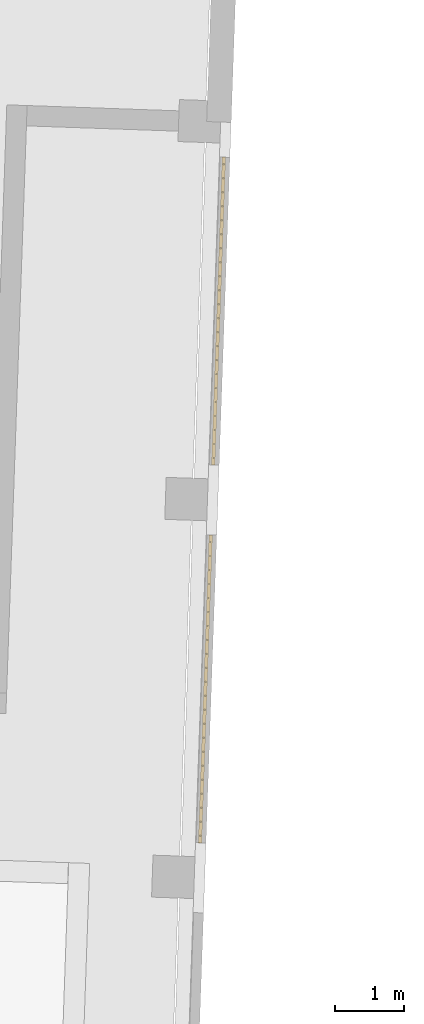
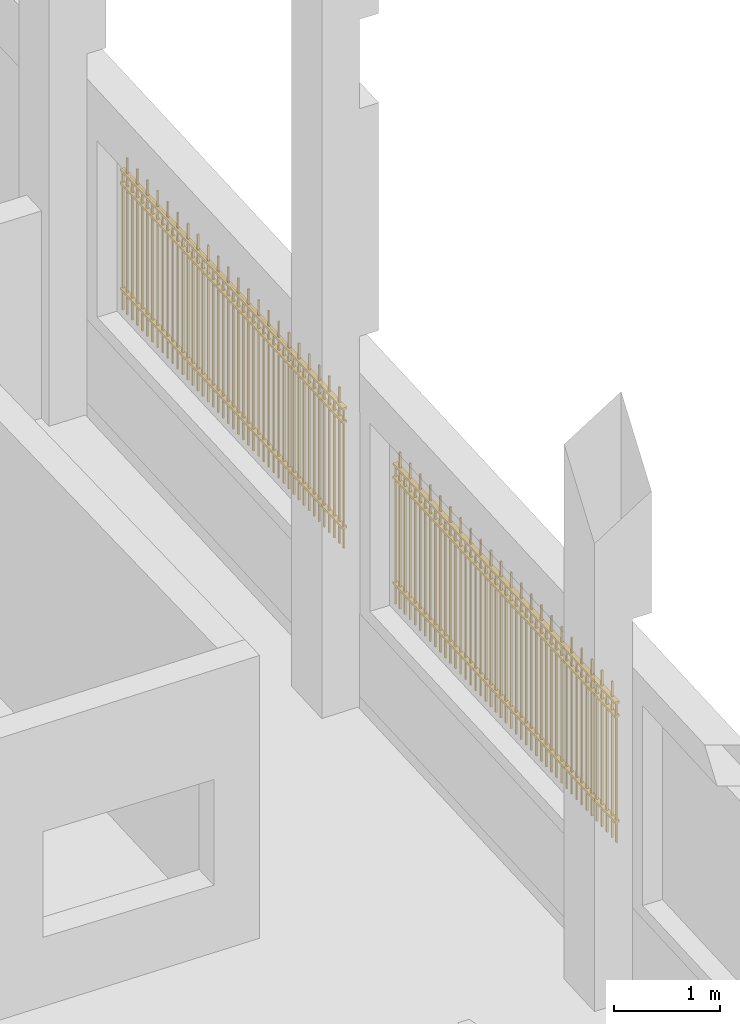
# One storey, part 42 of 44: 2 railings.
"""IFC2X3 building model written with IfcOpenShell, lengths in feet."""

from ifc_helpers import new_model, entity, si_unit, converted_unit, derived_unit, direction, frame, frame_2d, origin, origin_2d_with_axis, place, context, subcontext, project, spatial, rectangle, extrude, element, save


model = new_model("IFC2X3")

# Units and contexts
model_context = context("Model", 3, precision=0.0001, world=origin(), true_north=direction((0.999390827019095, 0.0348994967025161)))
body_context = subcontext(model_context, "Body", "Model", "MODEL_VIEW")
ifc_project = project(units=[converted_unit("LENGTHUNIT", "FOOT", entity("IfcRatioMeasure", 0.3048), si_unit("LENGTHUNIT", "METRE"), dimensions=[1, 0, 0, 0, 0, 0, 0]), converted_unit("AREAUNIT", "SQUARE FOOT", entity("IfcRatioMeasure", 0.09290304), si_unit("AREAUNIT", "SQUARE_METRE"), dimensions=[2, 0, 0, 0, 0, 0, 0]), converted_unit("VOLUMEUNIT", "CUBIC FOOT", entity("IfcRatioMeasure", 0.028316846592), si_unit("VOLUMEUNIT", "CUBIC_METRE"), dimensions=[3, 0, 0, 0, 0, 0, 0]), converted_unit("PLANEANGLEUNIT", "DEGREE", entity("IfcRatioMeasure", 0.0174532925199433), si_unit("PLANEANGLEUNIT", "RADIAN"), dimensions=[0, 0, 0, 0, 0, 0, 0]), si_unit("MASSUNIT", "GRAM", prefix="KILO"), si_unit("TIMEUNIT", "SECOND"), si_unit("FREQUENCYUNIT", "HERTZ"), si_unit("THERMODYNAMICTEMPERATUREUNIT", "DEGREE_CELSIUS"), derived_unit("THERMALTRANSMITTANCEUNIT", [(si_unit("MASSUNIT", "GRAM", prefix="KILO"), 1), (si_unit("THERMODYNAMICTEMPERATUREUNIT", "KELVIN"), -1), (si_unit("TIMEUNIT", "SECOND"), -3)]), derived_unit("VOLUMETRICFLOWRATEUNIT", [(si_unit("LENGTHUNIT", "METRE"), 3), (si_unit("TIMEUNIT", "SECOND"), -1)]), si_unit("ELECTRICCURRENTUNIT", "AMPERE"), si_unit("ELECTRICVOLTAGEUNIT", "VOLT"), si_unit("POWERUNIT", "WATT"), si_unit("FORCEUNIT", "NEWTON"), si_unit("ILLUMINANCEUNIT", "LUX"), si_unit("LUMINOUSFLUXUNIT", "LUMEN"), si_unit("LUMINOUSINTENSITYUNIT", "CANDELA"), derived_unit("USERDEFINED", [(si_unit("MASSUNIT", "GRAM", prefix="KILO"), -1), (si_unit("LENGTHUNIT", "METRE"), -2), (si_unit("TIMEUNIT", "SECOND"), 3), (si_unit("LUMINOUSFLUXUNIT", "LUMEN"), 1)]), derived_unit("LINEARVELOCITYUNIT", [(si_unit("LENGTHUNIT", "METRE"), 1), (si_unit("TIMEUNIT", "SECOND"), -1)]), si_unit("PRESSUREUNIT", "PASCAL"), derived_unit("USERDEFINED", [(si_unit("LENGTHUNIT", "METRE"), -2), (si_unit("MASSUNIT", "GRAM", prefix="KILO"), 1), (si_unit("TIMEUNIT", "SECOND"), -2)])], contexts=[model_context])

# Site, building, storey
site_placement = place(None, frame((892.518771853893, 322.38689265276, 0.00393700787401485), z_axis=(0.0, 0.0, 1.0), x_axis=(0.0348994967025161, 0.999390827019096, 0.0)))
site = spatial("IfcSite", under=ifc_project, at=site_placement, Name="Default", CompositionType="ELEMENT")
building_placement = place(site_placement, origin())
building = spatial("IfcBuilding", under=site, at=building_placement, CompositionType="ELEMENT")
storey_placement = place(building_placement, frame((0.0, 0.0, 544.75)))
storey = spatial("IfcBuildingStorey", under=building, at=storey_placement, Name="Exist Garage - Ground Level", CompositionType="ELEMENT", Elevation=544.75)

# Railings
railing_1_placement = place(storey_placement, origin())
element("IfcRailing", 1, at=railing_1_placement, inside=storey, Name="Railing:Garage Security Grille", ObjectType="Railing:Garage Security Grille", PredefinedType="NOTDEFINED", context=body_context, shape_type="SweptSolid", body=[
    extrude(rectangle(XDim=0.0625, YDim=0.0625, at=origin_2d_with_axis()), frame((190.926356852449, 235.548139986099, 3.66666666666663)), (0.0, 0.0, 1.0), 5.91666666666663),
    extrude(rectangle(XDim=0.0625, YDim=0.0625, at=origin_2d_with_axis()), frame((190.593023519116, 235.548139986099, 3.66666666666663)), (0.0, 0.0, 1.0), 5.25),
    extrude(rectangle(XDim=0.0625, YDim=0.0625, at=origin_2d_with_axis()), frame((190.259690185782, 235.548139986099, 3.66666666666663)), (0.0, 0.0, 1.0), 5.91666666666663),
    extrude(rectangle(XDim=0.0625, YDim=0.0625, at=origin_2d_with_axis()), frame((189.926356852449, 235.548139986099, 3.66666666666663)), (0.0, 0.0, 1.0), 5.25),
    extrude(rectangle(XDim=0.0625, YDim=0.0625, at=origin_2d_with_axis()), frame((189.593023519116, 235.548139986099, 3.66666666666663)), (0.0, 0.0, 1.0), 5.91666666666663),
    extrude(rectangle(XDim=0.0625, YDim=0.0625, at=origin_2d_with_axis()), frame((189.259690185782, 235.548139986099, 3.66666666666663)), (0.0, 0.0, 1.0), 5.25),
    extrude(rectangle(XDim=0.0625, YDim=0.0625, at=origin_2d_with_axis()), frame((188.926356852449, 235.548139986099, 3.66666666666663)), (0.0, 0.0, 1.0), 5.91666666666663),
    extrude(rectangle(XDim=0.0625, YDim=0.0625, at=origin_2d_with_axis()), frame((188.593023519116, 235.548139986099, 3.66666666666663)), (0.0, 0.0, 1.0), 5.25),
    extrude(rectangle(XDim=0.0625, YDim=0.0625, at=origin_2d_with_axis()), frame((188.259690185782, 235.548139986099, 3.66666666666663)), (0.0, 0.0, 1.0), 5.91666666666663),
    extrude(rectangle(XDim=0.0625, YDim=0.0625, at=origin_2d_with_axis()), frame((187.926356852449, 235.548139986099, 3.66666666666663)), (0.0, 0.0, 1.0), 5.25),
    extrude(rectangle(XDim=0.0625, YDim=0.0625, at=origin_2d_with_axis()), frame((187.593023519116, 235.548139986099, 3.66666666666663)), (0.0, 0.0, 1.0), 5.91666666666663),
    extrude(rectangle(XDim=0.0625, YDim=0.0625, at=origin_2d_with_axis()), frame((187.259690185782, 235.548139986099, 3.66666666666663)), (0.0, 0.0, 1.0), 5.25),
    extrude(rectangle(XDim=0.0625, YDim=0.0625, at=origin_2d_with_axis()), frame((186.926356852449, 235.548139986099, 3.66666666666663)), (0.0, 0.0, 1.0), 5.91666666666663),
    extrude(rectangle(XDim=0.0625, YDim=0.0625, at=origin_2d_with_axis()), frame((186.593023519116, 235.548139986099, 3.66666666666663)), (0.0, 0.0, 1.0), 5.25),
    extrude(rectangle(XDim=0.0625, YDim=0.0625, at=origin_2d_with_axis()), frame((186.259690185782, 235.548139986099, 3.66666666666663)), (0.0, 0.0, 1.0), 5.91666666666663),
    extrude(rectangle(XDim=0.0625, YDim=0.0625, at=origin_2d_with_axis()), frame((185.926356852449, 235.548139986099, 3.66666666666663)), (0.0, 0.0, 1.0), 5.25),
    extrude(rectangle(XDim=0.0625, YDim=0.0625, at=origin_2d_with_axis()), frame((185.593023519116, 235.548139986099, 3.66666666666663)), (0.0, 0.0, 1.0), 5.91666666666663),
    extrude(rectangle(XDim=0.0625, YDim=0.0625, at=origin_2d_with_axis()), frame((185.259690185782, 235.548139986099, 3.66666666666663)), (0.0, 0.0, 1.0), 5.25),
    extrude(rectangle(XDim=0.0625, YDim=0.0625, at=origin_2d_with_axis()), frame((184.926356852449, 235.548139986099, 3.66666666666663)), (0.0, 0.0, 1.0), 5.91666666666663),
    extrude(rectangle(XDim=0.0625, YDim=0.0625, at=origin_2d_with_axis()), frame((184.593023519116, 235.548139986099, 3.66666666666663)), (0.0, 0.0, 1.0), 5.25),
    extrude(rectangle(XDim=0.0625, YDim=0.0625, at=origin_2d_with_axis()), frame((184.259690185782, 235.548139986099, 3.66666666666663)), (0.0, 0.0, 1.0), 5.91666666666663),
    extrude(rectangle(XDim=0.0625, YDim=0.0625, at=origin_2d_with_axis()), frame((183.926356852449, 235.548139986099, 3.66666666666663)), (0.0, 0.0, 1.0), 5.25),
    extrude(rectangle(XDim=0.0625, YDim=0.0625, at=origin_2d_with_axis()), frame((183.593023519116, 235.548139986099, 3.66666666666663)), (0.0, 0.0, 1.0), 5.91666666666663),
    extrude(rectangle(XDim=0.0625, YDim=0.0625, at=origin_2d_with_axis()), frame((183.259690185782, 235.548139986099, 3.66666666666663)), (0.0, 0.0, 1.0), 5.25),
    extrude(rectangle(XDim=0.0625, YDim=0.0625, at=origin_2d_with_axis()), frame((182.926356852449, 235.548139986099, 3.66666666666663)), (0.0, 0.0, 1.0), 5.91666666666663),
    extrude(rectangle(XDim=0.0625, YDim=0.0625, at=origin_2d_with_axis()), frame((182.593023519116, 235.548139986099, 3.66666666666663)), (0.0, 0.0, 1.0), 5.25),
    extrude(rectangle(XDim=0.0625, YDim=0.0625, at=origin_2d_with_axis()), frame((182.259690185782, 235.548139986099, 3.66666666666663)), (0.0, 0.0, 1.0), 5.91666666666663),
    extrude(rectangle(XDim=0.0625, YDim=0.0625, at=origin_2d_with_axis()), frame((181.926356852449, 235.548139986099, 3.66666666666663)), (0.0, 0.0, 1.0), 5.25),
    extrude(rectangle(XDim=0.0625, YDim=0.0625, at=origin_2d_with_axis()), frame((181.593023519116, 235.548139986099, 3.66666666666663)), (0.0, 0.0, 1.0), 5.91666666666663),
    extrude(rectangle(XDim=0.0625, YDim=0.0625, at=origin_2d_with_axis()), frame((181.259690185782, 235.548139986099, 3.66666666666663)), (0.0, 0.0, 1.0), 5.25),
    extrude(rectangle(XDim=0.0625, YDim=0.0625, at=origin_2d_with_axis()), frame((180.926356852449, 235.548139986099, 3.66666666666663)), (0.0, 0.0, 1.0), 5.91666666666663),
    extrude(rectangle(XDim=0.0625, YDim=0.0625, at=origin_2d_with_axis()), frame((180.593023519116, 235.548139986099, 3.66666666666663)), (0.0, 0.0, 1.0), 5.25),
    extrude(rectangle(XDim=0.0625, YDim=0.0625, at=origin_2d_with_axis()), frame((180.259690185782, 235.548139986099, 3.66666666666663)), (0.0, 0.0, 1.0), 5.91666666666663),
    extrude(rectangle(XDim=0.0625, YDim=0.0625, at=origin_2d_with_axis()), frame((179.926356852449, 235.548139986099, 3.66666666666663)), (0.0, 0.0, 1.0), 5.25),
    extrude(rectangle(XDim=0.0625, YDim=0.0625, at=origin_2d_with_axis()), frame((179.593023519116, 235.548139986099, 3.66666666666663)), (0.0, 0.0, 1.0), 5.91666666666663),
    extrude(rectangle(XDim=0.0625, YDim=0.0625, at=origin_2d_with_axis()), frame((179.259690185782, 235.548139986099, 3.66666666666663)), (0.0, 0.0, 1.0), 5.25),
    extrude(rectangle(XDim=0.0625, YDim=0.0625, at=origin_2d_with_axis()), frame((178.926356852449, 235.548139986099, 3.66666666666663)), (0.0, 0.0, 1.0), 5.91666666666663),
    extrude(rectangle(XDim=0.0625, YDim=0.0625, at=origin_2d_with_axis()), frame((178.593023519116, 235.548139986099, 3.66666666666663)), (0.0, 0.0, 1.0), 5.25),
    extrude(rectangle(XDim=0.0625, YDim=0.0625, at=origin_2d_with_axis()), frame((178.259690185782, 235.548139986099, 3.66666666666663)), (0.0, 0.0, 1.0), 5.91666666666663),
    extrude(rectangle(XDim=0.0625, YDim=0.0625, at=origin_2d_with_axis()), frame((177.926356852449, 235.548139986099, 3.66666666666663)), (0.0, 0.0, 1.0), 5.25),
    extrude(rectangle(XDim=0.0625, YDim=0.0625, at=origin_2d_with_axis()), frame((177.593023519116, 235.548139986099, 3.66666666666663)), (0.0, 0.0, 1.0), 5.91666666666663),
    extrude(rectangle(XDim=0.0625, YDim=0.0625, at=origin_2d_with_axis()), frame((177.259690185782, 235.548139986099, 3.66666666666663)), (0.0, 0.0, 1.0), 5.25),
    extrude(rectangle(XDim=0.0625, YDim=0.0625, at=origin_2d_with_axis()), frame((176.926356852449, 235.548139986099, 3.66666666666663)), (0.0, 0.0, 1.0), 5.91666666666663),
    extrude(rectangle(XDim=0.0625, YDim=0.0625, at=origin_2d_with_axis()), frame((191.218023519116, 235.548139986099, 3.66666666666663)), (0.0, 0.0, 1.0), 5.25),
    extrude(rectangle(XDim=0.0625, YDim=0.0625, at=origin_2d_with_axis()), frame((176.634690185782, 235.548139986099, 3.66666666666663)), (0.0, 0.0, 1.0), 5.25),
    extrude(rectangle(XDim=14.6666666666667, YDim=0.166666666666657, at=frame_2d((1.4210854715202e-14, 0.0), x_axis=(1.0, 0.0))), frame((183.926356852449, 235.548139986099, 8.91666666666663)), (0.0, 0.0, 1.0), 0.0833333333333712),
    extrude(rectangle(XDim=14.6666666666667, YDim=0.166666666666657, at=frame_2d((1.4210854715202e-14, 0.0), x_axis=(1.0, 0.0))), frame((183.926356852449, 235.548139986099, 4.41666666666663)), (0.0, 0.0, 1.0), 0.0833333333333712),
    extrude(rectangle(XDim=14.6666666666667, YDim=0.166666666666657, at=frame_2d((1.4210854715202e-14, 0.0), x_axis=(1.0, 0.0))), frame((183.926356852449, 235.548139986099, 8.41666666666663)), (0.0, 0.0, 1.0), 0.0833333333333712),
])
railing_2_placement = place(storey_placement, origin())
element("IfcRailing", 2, at=railing_2_placement, inside=storey, Name="Railing:Garage Security Grille", ObjectType="Railing:Garage Security Grille", PredefinedType="NOTDEFINED", context=body_context, shape_type="SweptSolid", body=[
    extrude(rectangle(XDim=0.0625, YDim=0.0625, at=origin_2d_with_axis()), frame((172.926356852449, 235.548139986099, 3.66666666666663)), (0.0, 0.0, 1.0), 5.91666666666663),
    extrude(rectangle(XDim=0.0625, YDim=0.0625, at=origin_2d_with_axis()), frame((172.593023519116, 235.548139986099, 3.66666666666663)), (0.0, 0.0, 1.0), 5.25),
    extrude(rectangle(XDim=0.0625, YDim=0.0625, at=origin_2d_with_axis()), frame((172.259690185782, 235.548139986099, 3.66666666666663)), (0.0, 0.0, 1.0), 5.91666666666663),
    extrude(rectangle(XDim=0.0625, YDim=0.0625, at=origin_2d_with_axis()), frame((171.926356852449, 235.548139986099, 3.66666666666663)), (0.0, 0.0, 1.0), 5.25),
    extrude(rectangle(XDim=0.0625, YDim=0.0625, at=origin_2d_with_axis()), frame((171.593023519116, 235.548139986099, 3.66666666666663)), (0.0, 0.0, 1.0), 5.91666666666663),
    extrude(rectangle(XDim=0.0625, YDim=0.0625, at=origin_2d_with_axis()), frame((171.259690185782, 235.548139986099, 3.66666666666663)), (0.0, 0.0, 1.0), 5.25),
    extrude(rectangle(XDim=0.0625, YDim=0.0625, at=origin_2d_with_axis()), frame((170.926356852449, 235.548139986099, 3.66666666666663)), (0.0, 0.0, 1.0), 5.91666666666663),
    extrude(rectangle(XDim=0.0625, YDim=0.0625, at=origin_2d_with_axis()), frame((170.593023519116, 235.548139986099, 3.66666666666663)), (0.0, 0.0, 1.0), 5.25),
    extrude(rectangle(XDim=0.0625, YDim=0.0625, at=origin_2d_with_axis()), frame((170.259690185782, 235.548139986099, 3.66666666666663)), (0.0, 0.0, 1.0), 5.91666666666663),
    extrude(rectangle(XDim=0.0625, YDim=0.0625, at=origin_2d_with_axis()), frame((169.926356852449, 235.548139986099, 3.66666666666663)), (0.0, 0.0, 1.0), 5.25),
    extrude(rectangle(XDim=0.0625, YDim=0.0625, at=origin_2d_with_axis()), frame((169.593023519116, 235.548139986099, 3.66666666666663)), (0.0, 0.0, 1.0), 5.91666666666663),
    extrude(rectangle(XDim=0.0625, YDim=0.0625, at=origin_2d_with_axis()), frame((169.259690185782, 235.548139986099, 3.66666666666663)), (0.0, 0.0, 1.0), 5.25),
    extrude(rectangle(XDim=0.0625, YDim=0.0625, at=origin_2d_with_axis()), frame((168.926356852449, 235.548139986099, 3.66666666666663)), (0.0, 0.0, 1.0), 5.91666666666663),
    extrude(rectangle(XDim=0.0625, YDim=0.0625, at=origin_2d_with_axis()), frame((168.593023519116, 235.548139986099, 3.66666666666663)), (0.0, 0.0, 1.0), 5.25),
    extrude(rectangle(XDim=0.0625, YDim=0.0625, at=origin_2d_with_axis()), frame((168.259690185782, 235.548139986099, 3.66666666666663)), (0.0, 0.0, 1.0), 5.91666666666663),
    extrude(rectangle(XDim=0.0625, YDim=0.0625, at=origin_2d_with_axis()), frame((167.926356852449, 235.548139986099, 3.66666666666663)), (0.0, 0.0, 1.0), 5.25),
    extrude(rectangle(XDim=0.0625, YDim=0.0625, at=origin_2d_with_axis()), frame((167.593023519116, 235.548139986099, 3.66666666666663)), (0.0, 0.0, 1.0), 5.91666666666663),
    extrude(rectangle(XDim=0.0625, YDim=0.0625, at=origin_2d_with_axis()), frame((167.259690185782, 235.548139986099, 3.66666666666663)), (0.0, 0.0, 1.0), 5.25),
    extrude(rectangle(XDim=0.0625, YDim=0.0625, at=origin_2d_with_axis()), frame((166.926356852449, 235.548139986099, 3.66666666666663)), (0.0, 0.0, 1.0), 5.91666666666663),
    extrude(rectangle(XDim=0.0625, YDim=0.0625, at=origin_2d_with_axis()), frame((166.593023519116, 235.548139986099, 3.66666666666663)), (0.0, 0.0, 1.0), 5.25),
    extrude(rectangle(XDim=0.0625, YDim=0.0625, at=origin_2d_with_axis()), frame((166.259690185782, 235.548139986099, 3.66666666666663)), (0.0, 0.0, 1.0), 5.91666666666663),
    extrude(rectangle(XDim=0.0625, YDim=0.0625, at=origin_2d_with_axis()), frame((165.926356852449, 235.548139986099, 3.66666666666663)), (0.0, 0.0, 1.0), 5.25),
    extrude(rectangle(XDim=0.0625, YDim=0.0625, at=origin_2d_with_axis()), frame((165.593023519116, 235.548139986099, 3.66666666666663)), (0.0, 0.0, 1.0), 5.91666666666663),
    extrude(rectangle(XDim=0.0625, YDim=0.0625, at=origin_2d_with_axis()), frame((165.259690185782, 235.548139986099, 3.66666666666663)), (0.0, 0.0, 1.0), 5.25),
    extrude(rectangle(XDim=0.0625, YDim=0.0625, at=origin_2d_with_axis()), frame((164.926356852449, 235.548139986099, 3.66666666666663)), (0.0, 0.0, 1.0), 5.91666666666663),
    extrude(rectangle(XDim=0.0625, YDim=0.0625, at=origin_2d_with_axis()), frame((164.593023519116, 235.548139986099, 3.66666666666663)), (0.0, 0.0, 1.0), 5.25),
    extrude(rectangle(XDim=0.0625, YDim=0.0625, at=origin_2d_with_axis()), frame((164.259690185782, 235.548139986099, 3.66666666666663)), (0.0, 0.0, 1.0), 5.91666666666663),
    extrude(rectangle(XDim=0.0625, YDim=0.0625, at=origin_2d_with_axis()), frame((163.926356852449, 235.548139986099, 3.66666666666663)), (0.0, 0.0, 1.0), 5.25),
    extrude(rectangle(XDim=0.0625, YDim=0.0625, at=origin_2d_with_axis()), frame((163.593023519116, 235.548139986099, 3.66666666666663)), (0.0, 0.0, 1.0), 5.91666666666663),
    extrude(rectangle(XDim=0.0625, YDim=0.0625, at=origin_2d_with_axis()), frame((163.259690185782, 235.548139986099, 3.66666666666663)), (0.0, 0.0, 1.0), 5.25),
    extrude(rectangle(XDim=0.0625, YDim=0.0625, at=origin_2d_with_axis()), frame((162.926356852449, 235.548139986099, 3.66666666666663)), (0.0, 0.0, 1.0), 5.91666666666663),
    extrude(rectangle(XDim=0.0625, YDim=0.0625, at=origin_2d_with_axis()), frame((162.593023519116, 235.548139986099, 3.66666666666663)), (0.0, 0.0, 1.0), 5.25),
    extrude(rectangle(XDim=0.0625, YDim=0.0625, at=origin_2d_with_axis()), frame((162.259690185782, 235.548139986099, 3.66666666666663)), (0.0, 0.0, 1.0), 5.91666666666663),
    extrude(rectangle(XDim=0.0625, YDim=0.0625, at=origin_2d_with_axis()), frame((161.926356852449, 235.548139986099, 3.66666666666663)), (0.0, 0.0, 1.0), 5.25),
    extrude(rectangle(XDim=0.0625, YDim=0.0625, at=origin_2d_with_axis()), frame((161.593023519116, 235.548139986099, 3.66666666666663)), (0.0, 0.0, 1.0), 5.91666666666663),
    extrude(rectangle(XDim=0.0625, YDim=0.0625, at=origin_2d_with_axis()), frame((161.259690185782, 235.548139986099, 3.66666666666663)), (0.0, 0.0, 1.0), 5.25),
    extrude(rectangle(XDim=0.0625, YDim=0.0625, at=origin_2d_with_axis()), frame((160.926356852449, 235.548139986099, 3.66666666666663)), (0.0, 0.0, 1.0), 5.91666666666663),
    extrude(rectangle(XDim=0.0625, YDim=0.0625, at=origin_2d_with_axis()), frame((160.593023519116, 235.548139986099, 3.66666666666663)), (0.0, 0.0, 1.0), 5.25),
    extrude(rectangle(XDim=0.0625, YDim=0.0625, at=origin_2d_with_axis()), frame((160.259690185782, 235.548139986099, 3.66666666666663)), (0.0, 0.0, 1.0), 5.91666666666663),
    extrude(rectangle(XDim=0.0625, YDim=0.0625, at=origin_2d_with_axis()), frame((159.926356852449, 235.548139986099, 3.66666666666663)), (0.0, 0.0, 1.0), 5.25),
    extrude(rectangle(XDim=0.0625, YDim=0.0625, at=origin_2d_with_axis()), frame((159.593023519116, 235.548139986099, 3.66666666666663)), (0.0, 0.0, 1.0), 5.91666666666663),
    extrude(rectangle(XDim=0.0625, YDim=0.0625, at=origin_2d_with_axis()), frame((159.259690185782, 235.548139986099, 3.66666666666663)), (0.0, 0.0, 1.0), 5.25),
    extrude(rectangle(XDim=0.0625, YDim=0.0625, at=origin_2d_with_axis()), frame((158.926356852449, 235.548139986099, 3.66666666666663)), (0.0, 0.0, 1.0), 5.91666666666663),
    extrude(rectangle(XDim=0.0625, YDim=0.0625, at=origin_2d_with_axis()), frame((173.218023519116, 235.548139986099, 3.66666666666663)), (0.0, 0.0, 1.0), 5.25),
    extrude(rectangle(XDim=0.0625, YDim=0.0625, at=origin_2d_with_axis()), frame((158.634690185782, 235.548139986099, 3.66666666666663)), (0.0, 0.0, 1.0), 5.25),
    extrude(rectangle(XDim=14.6666666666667, YDim=0.166666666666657, at=frame_2d((1.4210854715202e-14, 0.0), x_axis=(1.0, 0.0))), frame((165.926356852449, 235.548139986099, 8.91666666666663)), (0.0, 0.0, 1.0), 0.0833333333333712),
    extrude(rectangle(XDim=14.6666666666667, YDim=0.166666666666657, at=frame_2d((1.4210854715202e-14, 0.0), x_axis=(1.0, 0.0))), frame((165.926356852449, 235.548139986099, 4.41666666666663)), (0.0, 0.0, 1.0), 0.0833333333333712),
    extrude(rectangle(XDim=14.6666666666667, YDim=0.166666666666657, at=frame_2d((1.4210854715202e-14, 0.0), x_axis=(1.0, 0.0))), frame((165.926356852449, 235.548139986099, 8.41666666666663)), (0.0, 0.0, 1.0), 0.0833333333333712),
])

save(model, "model.ifc")
